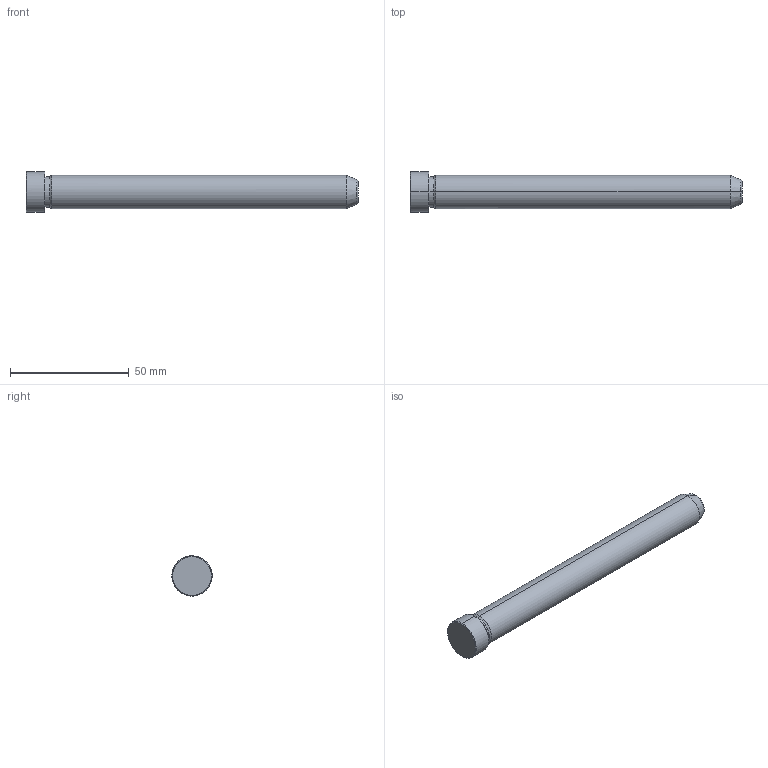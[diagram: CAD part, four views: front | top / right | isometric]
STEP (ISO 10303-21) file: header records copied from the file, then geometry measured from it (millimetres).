
FILE_DESCRIPTION(('CATIA V5 STEP Exchange'),'2;1');
FILE_NAME('C:\Users\Utente\Desktop\IO LAVORO\3D X SITO CF\X SITO\PLASTICA\549\549-14X140.stp','2021-12-11T09:25:08+00:00',('none'),('none'),'CATIA Version 5 Release 20 GA (IN-10)','CATIA V5 STEP AP203','none');
FILE_SCHEMA(('CONFIG_CONTROL_DESIGN'));
Length unit declared in the file: millimetre
Products named in the file (1): 549-14X140
Bounding box: 140 x 17 x 17 mm (x, y, z)
Volume: 21876 mm3; surface area: 6588.9 mm2
Topology: 1 solids, 1 shells, 19 faces, 56 edges, 40 vertices
Faces by surface type: cone 8, cylinder 6, plane 3, torus 2
Entity records: 736 total; most frequent: CARTESIAN_POINT 192, ORIENTED_EDGE 112, DIRECTION 86, EDGE_CURVE 56, AXIS2_PLACEMENT_3D 54, VERTEX_POINT 40, CIRCLE 34, EDGE_LOOP 20
